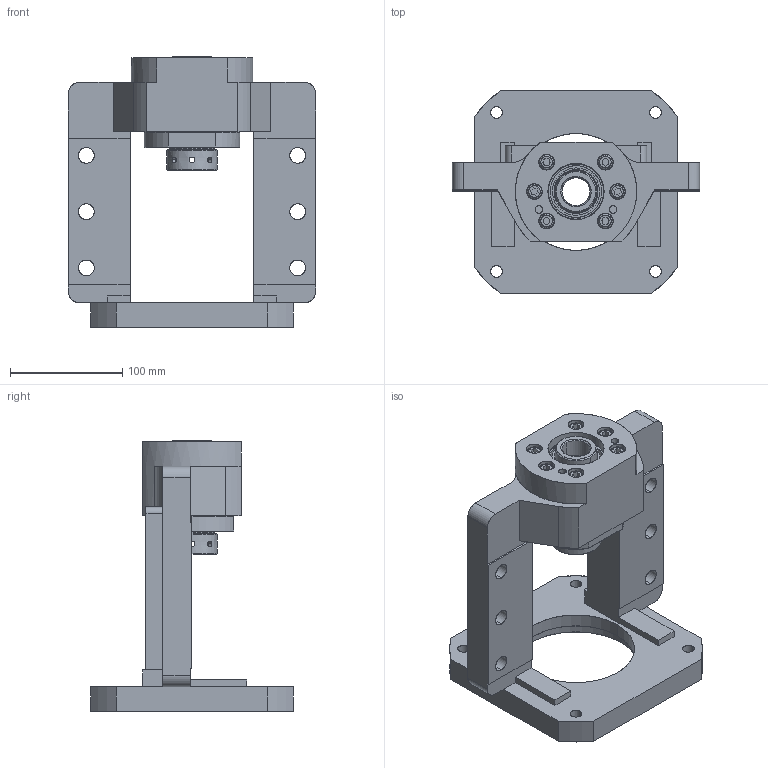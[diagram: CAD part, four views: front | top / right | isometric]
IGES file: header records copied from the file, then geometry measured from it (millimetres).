
Start section: SolidWorks IGES file using analytic representation for surfaces
Bounding box: 220 x 180 x 241 mm (x, y, z)
Surface area: 226223.6 mm2 (no closed solid volume)
Topology: 0 solids, 0 shells, 344 faces, 6698 edges, 6690 vertices
Faces by surface type: revolution 186, bspline 158
